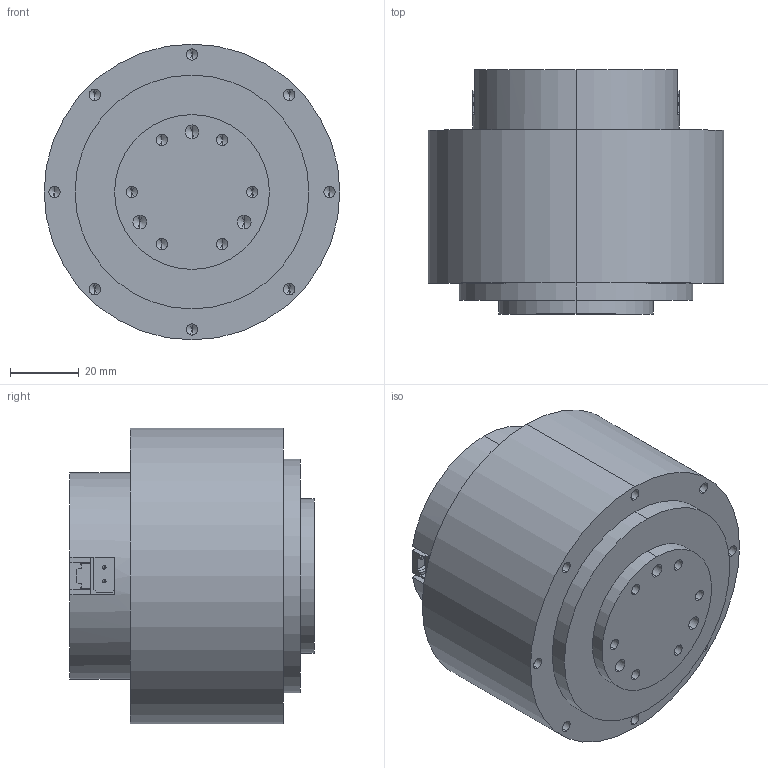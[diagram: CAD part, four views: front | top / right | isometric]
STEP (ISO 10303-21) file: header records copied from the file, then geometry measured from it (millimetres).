
FILE_DESCRIPTION (( 'STEP AP203' ), '1' );
FILE_NAME ('RMBOT86-24.8-P1-100Nm-PC2.STEP', '2025-06-07T02:46:55', ( 'China' ), ( 'Microsoft' ), 'SwSTEP 2.0', 'SolidWorks 2022', '' );
FILE_SCHEMA (( 'CONFIG_CONTROL_DESIGN' ));
Length unit declared in the file: millimetre
Products named in the file (3): RMBOT86-24.8-P1-100Nm-PC2; 内六角半沉头螺钉M2X6
Assembly tree (11 placements, depth 2):
  RMBOT86-24.8-P1-100Nm-PC2
    RMBOT86-24.8-P1-100Nm-PC2
    内六角半沉头螺钉M2X6  x10
Bounding box: 86 x 71 x 86 mm (x, y, z)
Volume: 330688.7 mm3; surface area: 31387.6 mm2
Topology: 11 solids, 11 shells, 393 faces, 932 edges, 543 vertices
Faces by surface type: plane 161, cone 114, cylinder 110, sphere 8
Entity records: 7219 total; most frequent: DIRECTION 1230, CARTESIAN_POINT 1129, ORIENTED_EDGE 1076, EDGE_CURVE 538, AXIS2_PLACEMENT_3D 438, VECTOR 354, LINE 354, VERTEX_POINT 337
